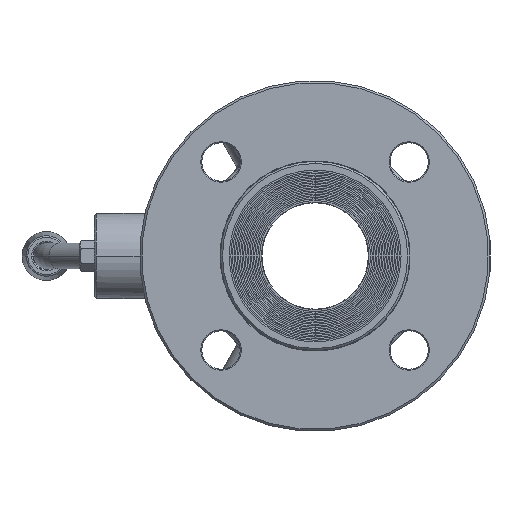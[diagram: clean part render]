
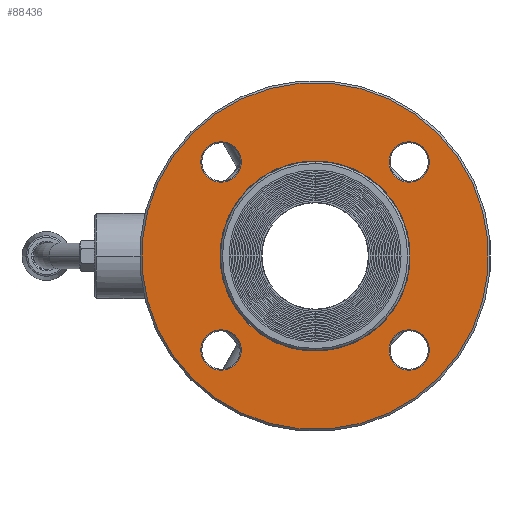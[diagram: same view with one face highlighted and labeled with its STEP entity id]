
A CAD part, left-side view. The second image highlights one B-rep face of the part: STEP entity #88436.
In plain terms, the highlighted planar face has unit normal (-1, 0, 0).
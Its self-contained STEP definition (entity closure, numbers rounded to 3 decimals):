
#28766=CARTESIAN_POINT('',(-73.,0.,0.));
#28767=DIRECTION('',(1.,0.,0.));
#28768=DIRECTION('',(0.,-0.707,0.707));
#28769=AXIS2_PLACEMENT_3D('',#28766,#28767,#28768);
#28774=CARTESIAN_POINT('',(-73.,0.,0.));
#28775=DIRECTION('',(1.,0.,0.));
#28776=DIRECTION('',(0.,0.707,-0.707));
#28777=AXIS2_PLACEMENT_3D('',#28774,#28775,#28776);
#28782=CARTESIAN_POINT('',(-73.,0.,0.));
#28783=DIRECTION('',(1.,0.,0.));
#28784=DIRECTION('',(0.,0.707,-0.707));
#28785=AXIS2_PLACEMENT_3D('',#28782,#28783,#28784);
#28790=CARTESIAN_POINT('',(-73.,0.,0.));
#28791=DIRECTION('',(1.,0.,0.));
#28792=DIRECTION('',(0.,-0.707,0.707));
#28793=AXIS2_PLACEMENT_3D('',#28790,#28791,#28792);
#28798=CARTESIAN_POINT('',(-73.,44.194,-44.194));
#28799=DIRECTION('',(-1.,0.,0.));
#28800=DIRECTION('',(0.,0.707,-0.707));
#28801=AXIS2_PLACEMENT_3D('',#28798,#28799,#28800);
#28814=CARTESIAN_POINT('',(-73.,44.194,-44.194));
#28815=DIRECTION('',(-1.,0.,0.));
#28816=DIRECTION('',(0.,-0.707,0.707));
#28817=AXIS2_PLACEMENT_3D('',#28814,#28815,#28816);
#28904=CARTESIAN_POINT('',(-73.,-44.194,-44.194));
#28905=DIRECTION('',(-1.,0.,0.));
#28906=DIRECTION('',(0.,0.707,-0.707));
#28907=AXIS2_PLACEMENT_3D('',#28904,#28905,#28906);
#28920=CARTESIAN_POINT('',(-73.,-44.194,-44.194));
#28921=DIRECTION('',(-1.,0.,0.));
#28922=DIRECTION('',(0.,-0.707,0.707));
#28923=AXIS2_PLACEMENT_3D('',#28920,#28921,#28922);
#29010=CARTESIAN_POINT('',(-73.,-44.194,44.194));
#29011=DIRECTION('',(-1.,0.,0.));
#29012=DIRECTION('',(0.,0.707,-0.707));
#29013=AXIS2_PLACEMENT_3D('',#29010,#29011,#29012);
#29026=CARTESIAN_POINT('',(-73.,-44.194,44.194));
#29027=DIRECTION('',(-1.,0.,0.));
#29028=DIRECTION('',(0.,-0.707,0.707));
#29029=AXIS2_PLACEMENT_3D('',#29026,#29027,#29028);
#29116=CARTESIAN_POINT('',(-73.,44.194,44.194));
#29117=DIRECTION('',(-1.,0.,0.));
#29118=DIRECTION('',(0.,0.707,-0.707));
#29119=AXIS2_PLACEMENT_3D('',#29116,#29117,#29118);
#29132=CARTESIAN_POINT('',(-73.,44.194,44.194));
#29133=DIRECTION('',(-1.,0.,0.));
#29134=DIRECTION('',(0.,-0.707,0.707));
#29135=AXIS2_PLACEMENT_3D('',#29132,#29133,#29134);
#74488=CARTESIAN_POINT('',(-73.,50.912,37.477));
#74489=CARTESIAN_POINT('',(-73.,37.477,50.912));
#74490=VERTEX_POINT('',#74488);
#74491=VERTEX_POINT('',#74489);
#74496=CARTESIAN_POINT('',(-73.,50.912,-50.912));
#74497=CARTESIAN_POINT('',(-73.,37.477,-37.477));
#74498=VERTEX_POINT('',#74496);
#74499=VERTEX_POINT('',#74497);
#74504=CARTESIAN_POINT('',(-73.,-37.477,-50.912));
#74505=CARTESIAN_POINT('',(-73.,-50.912,-37.477));
#74506=VERTEX_POINT('',#74504);
#74507=VERTEX_POINT('',#74505);
#74512=CARTESIAN_POINT('',(-73.,-37.477,37.477));
#74513=CARTESIAN_POINT('',(-73.,-50.912,50.912));
#74514=VERTEX_POINT('',#74512);
#74515=VERTEX_POINT('',#74513);
#74528=CARTESIAN_POINT('',(-73.,31.643,-31.643));
#74529=CARTESIAN_POINT('',(-73.,-31.643,31.643));
#74530=VERTEX_POINT('',#74528);
#74531=VERTEX_POINT('',#74529);
#74536=CARTESIAN_POINT('',(-73.,-57.629,57.629));
#74537=CARTESIAN_POINT('',(-73.,57.629,-57.629));
#74538=VERTEX_POINT('',#74536);
#74539=VERTEX_POINT('',#74537);
#88397=CARTESIAN_POINT('',(-73.,0.,0.));
#88398=DIRECTION('',(1.,0.,0.));
#88399=DIRECTION('',(0.,0.707,-0.707));
#88400=AXIS2_PLACEMENT_3D('',#88397,#88398,#88399);
#88401=PLANE('',#88400);
#88402=ORIENTED_EDGE('',*,*,#88377,.T.);
#88403=ORIENTED_EDGE('',*,*,#88391,.T.);
#88404=EDGE_LOOP('',(#88402,#88403));
#88405=FACE_OUTER_BOUND('',#88404,.F.);
#88407=ORIENTED_EDGE('',*,*,#88406,.T.);
#88409=ORIENTED_EDGE('',*,*,#88408,.T.);
#88410=EDGE_LOOP('',(#88407,#88409));
#88411=FACE_BOUND('',#88410,.F.);
#88413=ORIENTED_EDGE('',*,*,#88412,.T.);
#88415=ORIENTED_EDGE('',*,*,#88414,.T.);
#88416=EDGE_LOOP('',(#88413,#88415));
#88417=FACE_BOUND('',#88416,.F.);
#88419=ORIENTED_EDGE('',*,*,#88418,.T.);
#88421=ORIENTED_EDGE('',*,*,#88420,.T.);
#88422=EDGE_LOOP('',(#88419,#88421));
#88423=FACE_BOUND('',#88422,.F.);
#88425=ORIENTED_EDGE('',*,*,#88424,.T.);
#88427=ORIENTED_EDGE('',*,*,#88426,.T.);
#88428=EDGE_LOOP('',(#88425,#88427));
#88429=FACE_BOUND('',#88428,.F.);
#88431=ORIENTED_EDGE('',*,*,#88430,.F.);
#88433=ORIENTED_EDGE('',*,*,#88432,.F.);
#88434=EDGE_LOOP('',(#88431,#88433));
#88435=FACE_BOUND('',#88434,.F.);
#88436=ADVANCED_FACE('',(#88405,#88411,#88417,#88423,#88429,#88435),#88401,.F.);
#28770=CIRCLE('',#28769,81.5);
#28778=CIRCLE('',#28777,81.5);
#28786=CIRCLE('',#28785,44.75);
#28794=CIRCLE('',#28793,44.75);
#28802=CIRCLE('',#28801,9.5);
#28818=CIRCLE('',#28817,9.5);
#28908=CIRCLE('',#28907,9.5);
#28924=CIRCLE('',#28923,9.5);
#29014=CIRCLE('',#29013,9.5);
#29030=CIRCLE('',#29029,9.5);
#29120=CIRCLE('',#29119,9.5);
#29136=CIRCLE('',#29135,9.5);
#88377=EDGE_CURVE('',#74538,#74539,#28770,.T.);
#88391=EDGE_CURVE('',#74539,#74538,#28778,.T.);
#88406=EDGE_CURVE('',#74498,#74499,#28802,.T.);
#88408=EDGE_CURVE('',#74499,#74498,#28818,.T.);
#88412=EDGE_CURVE('',#74506,#74507,#28908,.T.);
#88414=EDGE_CURVE('',#74507,#74506,#28924,.T.);
#88418=EDGE_CURVE('',#74514,#74515,#29014,.T.);
#88420=EDGE_CURVE('',#74515,#74514,#29030,.T.);
#88424=EDGE_CURVE('',#74490,#74491,#29120,.T.);
#88426=EDGE_CURVE('',#74491,#74490,#29136,.T.);
#88430=EDGE_CURVE('',#74530,#74531,#28786,.T.);
#88432=EDGE_CURVE('',#74531,#74530,#28794,.T.);
